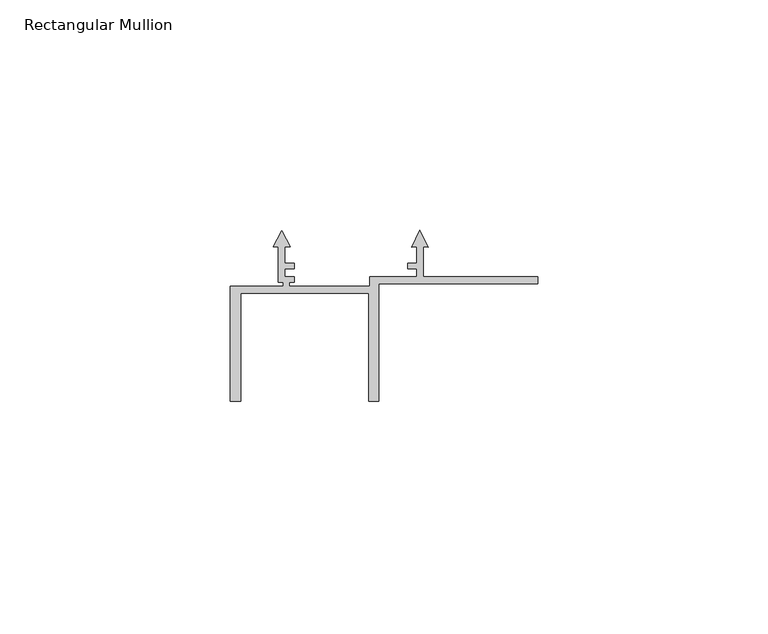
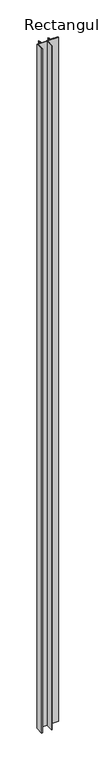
"""IFC4 building model written with IfcOpenShell, lengths in millimetres: member geometry, Rectangular Mullion : Renson_Linarte_LA-E25-01 Zone B."""

import ifcopenshell
import ifcopenshell.guid

model = None  # the IFC model being written
_history = None  # IfcOwnerHistory: only IFC2X3 demands one
_inside = {}  # id of a spatial element -> (the spatial element, [elements in it])
_under = {}  # id of a project, library or spatial element -> (it, [spatial elements below it])
_declared = {}  # id of a project -> (the project, [libraries it declares])
_typed = {}  # id of a type object -> (the type object, [elements of that type])
_made_of = {}  # id of a material, layer set ... -> (it, [elements and type objects made of it])


def new_model(schema):
    """Start an empty IFC model of exactly this schema.

    Asked for "IFC4X3", IfcOpenShell would pick the latest addendum, in which some entities
    have other attributes; the version numbers below select the first issue.
    IFC2X3 requires an IfcOwnerHistory on every rooted entity: one is made here for all.
    """
    global model, _history
    if schema == "IFC4X3":
        model = ifcopenshell.file(schema_version=(4, 3, 0, 0))
    else:
        model = ifcopenshell.file(schema=schema)
    _inside.clear()
    _under.clear()
    _declared.clear()
    _typed.clear()
    _made_of.clear()
    _history = None
    if model.schema == "IFC2X3":
        org = make("IfcOrganization", Name="unknown")
        user = make(
            "IfcPersonAndOrganization",
            ThePerson=make("IfcPerson", FamilyName="unknown"),
            TheOrganization=org,
        )
        app = make(
            "IfcApplication",
            ApplicationDeveloper=org,
            Version="unknown",
            ApplicationFullName="unknown",
            ApplicationIdentifier="unknown",
        )
        _history = make(
            "IfcOwnerHistory",
            OwningUser=user,
            OwningApplication=app,
            ChangeAction="ADDED",
            CreationDate=0,
        )
    return model


def make(cls, **values):
    """One entity of the class cls with the attributes given. An attribute that is None is left unset."""
    return model.create_entity(
        cls, **{name: value for name, value in values.items() if value is not None}
    )


def rooted(cls, **values):
    """An entity with a GlobalId (a new one), such as an element, a storey or a relation."""
    return make(cls, GlobalId=ifcopenshell.guid.new(), OwnerHistory=_history, **values)


def si_unit(unit_type, name, prefix=None):
    """IfcSIUnit, for example si_unit("LENGTHUNIT", "METRE", prefix="MILLI")."""
    return make("IfcSIUnit", UnitType=unit_type, Prefix=prefix, Name=name)


def assignment(units):
    """IfcUnitAssignment: the units of a project."""
    return None if units is None else make("IfcUnitAssignment", Units=units)


def point(xyz):
    """IfcCartesianPoint."""
    return None if xyz is None else make("IfcCartesianPoint", Coordinates=xyz)


def direction(xyz):
    """IfcDirection."""
    return None if xyz is None else make("IfcDirection", DirectionRatios=xyz)


def frame(location, z_axis=None, x_axis=None):
    """IfcAxis2Placement3D, a coordinate frame: its origin and axes. An axis left out is left unset."""
    return make(
        "IfcAxis2Placement3D",
        Location=point(location),
        Axis=direction(z_axis),
        RefDirection=direction(x_axis),
    )


def origin():
    """The frame at (0, 0, 0) with its axes left unset."""
    return frame((0.0, 0.0, 0.0))


def place(relative_to, where):
    """IfcLocalPlacement: puts the frame where relative to a parent placement (None: the world)."""
    return make(
        "IfcLocalPlacement", PlacementRelTo=relative_to, RelativePlacement=where
    )


def context(
    kind, dimensions, precision=None, world=None, true_north=None, identifier=None
):
    """IfcGeometricRepresentationContext, for example the 3D "Model" context."""
    return make(
        "IfcGeometricRepresentationContext",
        ContextIdentifier=identifier,
        ContextType=kind,
        CoordinateSpaceDimension=dimensions,
        Precision=precision,
        WorldCoordinateSystem=world,
        TrueNorth=true_north,
    )


def project(units=None, contexts=None):
    """IfcProject with its units and contexts."""
    return rooted(
        "IfcProject",
        Name="project",
        RepresentationContexts=contexts,
        UnitsInContext=assignment(units),
    )


def spatial(cls, under=None, at=None, **own):
    """A site, building, storey or space (cls), placed at a placement, below another one or the project."""
    s = rooted(cls, ObjectPlacement=at, **own)
    if under is not None:
        _under.setdefault(under.id(), (under, []))[1].append(s)
    return s


def polyline(points):
    """IfcPolyline through the points."""
    return make("IfcPolyline", Points=[point(p) for p in points])


def outline(outer, holes=None, kind="AREA"):
    """IfcArbitraryClosedProfileDef: a profile drawn as a closed curve; with holes, ...WithVoids."""
    if holes is None:
        return make("IfcArbitraryClosedProfileDef", ProfileType=kind, OuterCurve=outer)
    return make(
        "IfcArbitraryProfileDefWithVoids",
        ProfileType=kind,
        OuterCurve=outer,
        InnerCurves=holes,
    )


def extrude(swept, where, along, depth):
    """IfcExtrudedAreaSolid: the profile swept, set in the frame where, extruded along a direction by depth."""
    return make(
        "IfcExtrudedAreaSolid",
        SweptArea=swept,
        Position=where,
        ExtrudedDirection=direction(along),
        Depth=depth,
    )


def shape(context_of_items, identifier, shape_type, items):
    """IfcShapeRepresentation: the items that make up one representation, for example the "Body"."""
    return make(
        "IfcShapeRepresentation",
        ContextOfItems=context_of_items,
        RepresentationIdentifier=identifier,
        RepresentationType=shape_type,
        Items=items,
    )


def source(mapping_origin, context_of_items, identifier, shape_type, items):
    """IfcRepresentationMap: a shape defined once, which mapped items show again and again."""
    return make(
        "IfcRepresentationMap",
        MappingOrigin=mapping_origin,
        MappedRepresentation=shape(context_of_items, identifier, shape_type, items),
    )


def transform(
    local_origin,
    x_axis=None,
    y_axis=None,
    z_axis=None,
    scale=None,
    scale2=None,
    scale3=None,
    uniform=True,
):
    """IfcCartesianTransformationOperator3D, or its non-uniform kind. x_axis, y_axis, z_axis: its Axis1, 2, 3."""
    if uniform:
        return make(
            "IfcCartesianTransformationOperator3D",
            Axis1=direction(x_axis),
            Axis2=direction(y_axis),
            LocalOrigin=point(local_origin),
            Scale=scale,
            Axis3=direction(z_axis),
        )
    return make(
        "IfcCartesianTransformationOperator3DnonUniform",
        Axis1=direction(x_axis),
        Axis2=direction(y_axis),
        LocalOrigin=point(local_origin),
        Scale=scale,
        Axis3=direction(z_axis),
        Scale2=scale2,
        Scale3=scale3,
    )


def mapped(mapping_source, mapping_target):
    """IfcMappedItem: shows the shape of a source again, moved by a transform."""
    return make(
        "IfcMappedItem", MappingSource=mapping_source, MappingTarget=mapping_target
    )


def made_of(thing, what):
    """Note that an element or type object is made of a material, layer set ...; save() writes the relation."""
    if what is not None:
        _made_of.setdefault(what.id(), (what, []))[1].append(thing)
    return thing


def element(
    cls,
    number,
    at=None,
    inside=None,
    cuts=None,
    type_object=None,
    material=None,
    context=None,
    identifier="Body",
    shape_type=None,
    held_by="IfcProductDefinitionShape",
    body=None,
    shapes=None,
    **own,
):
    """One element of the class cls, such as IfcWall. Its Tag is "e" and its number.

    at: its placement. inside: the storey or other place that contains it. cuts: it is an
    opening in that element (IfcRelVoidsElement). A single representation is given by context,
    identifier, shape_type and body (its items); several are given by shapes. held_by: the class
    of the entity that holds the representations. save() writes the other relations.
    """
    e = rooted(cls, Tag="e%d" % number, ObjectPlacement=at, **own)
    if body is not None:
        shapes = [shape(context, identifier, shape_type, body)]
    if shapes is not None:
        e.Representation = make(held_by, Representations=shapes)
    if inside is not None:
        _inside.setdefault(inside.id(), (inside, []))[1].append(e)
    if cuts is not None:
        rooted(
            "IfcRelVoidsElement", RelatingBuildingElement=cuts, RelatedOpeningElement=e
        )
    if type_object is not None:
        _typed.setdefault(type_object.id(), (type_object, []))[1].append(e)
    return made_of(e, material)


def aggregate(whole, parts):
    """IfcRelAggregates: a whole, such as a stair, and the parts it consists of."""
    return rooted("IfcRelAggregates", RelatingObject=whole, RelatedObjects=parts)


def save(model, path):
    """Write the relations noted so far, then the file.

    IfcRelAggregates (storeys below a building ...), IfcRelContainedInSpatialStructure (elements
    in a storey), IfcRelDefinesByType, IfcRelAssociatesMaterial and IfcRelDeclares: one each for
    every whole, place, type object, material and project.
    """
    for whole, parts in _under.values():
        aggregate(whole, parts)
    for where, things in _inside.values():
        rooted(
            "IfcRelContainedInSpatialStructure",
            RelatedElements=things,
            RelatingStructure=where,
        )
    for kind, things in _typed.values():
        rooted("IfcRelDefinesByType", RelatedObjects=things, RelatingType=kind)
    for what, things in _made_of.values():
        rooted("IfcRelAssociatesMaterial", RelatedObjects=things, RelatingMaterial=what)
    for by, libraries in _declared.values():
        rooted("IfcRelDeclares", RelatingContext=by, RelatedDefinitions=libraries)
    model.write(path)


def rectangular_mullion_0795b381(model_context):
    return source(origin(), model_context, "Body", "SweptSolid", [
        extrude(outline(polyline([(66.6, -21.6000494), (32.2, -21.6000494), (32.2, -47.1000494), (30.0, -47.1000494), (30.0, -23.6000494), (2.2, -23.6000494), (2.2, -47.1000494), (0.0, -47.1000494), (0.0, -22.1000494), (11.4, -22.1000494), (11.4, -21.3015754), (10.3999985, -21.3015754), (10.3999985, -13.5038712), (9.284262, -13.6014855), (11.0999986, -10.037898), (12.9157351, -13.6014855), (11.7999987, -13.5038712), (11.7999987, -17.0979618), (13.7875618, -17.0979618), (13.7875618, -18.3000494), (11.8091794, -18.3000494), (11.8091794, -20.1000494), (13.7880766, -20.1000494), (13.7880766, -21.3015754), (12.8, -21.3015754), (12.8, -22.1000494), (30.1732051, -22.1000494), (30.1732051, -20.1000494), (40.3999995, -20.1000494), (40.3999995, -18.3000494), (38.4077357, -18.3000494), (38.4077357, -17.099221), (40.3999998, -17.099221), (40.3999998, -13.5071867), (39.2744672, -13.6056581), (41.0999986, -10.0228474), (42.9255299, -13.6056578), (41.8, -13.5071867), (41.8, -20.1000494), (66.6, -20.1000494), (66.6, -21.6000494)])), frame((0.0, 0.0, -2225.0), z_axis=(0.0, 0.0, 1.0), x_axis=(1.0, 0.0, 0.0)), (0.0, 0.0, 1.0), 2225.0),
    ])


if __name__ == "__main__":
    model = new_model("IFC4")
    model_context = context("Model", 3, world=origin())
    ifc_project = project(units=[si_unit("LENGTHUNIT", "METRE", prefix="MILLI")], contexts=[model_context])
    site = spatial("IfcSite", under=ifc_project)
    building = spatial("IfcBuilding", under=site)
    placement = place(None, origin())
    rectangular_mullion_shape = rectangular_mullion_0795b381(model_context)
    element("IfcMember", 1, ObjectType="Rectangular Mullion : Renson_Linarte_LA-E25-01 Zone B", at=placement, inside=building, context=model_context, shape_type="MappedRepresentation", body=[
        mapped(rectangular_mullion_shape, transform((0.0, 0.0, 0.0), x_axis=(1.0, 0.0, 0.0), y_axis=(0.0, 1.0, 0.0), z_axis=(0.0, 0.0, 1.0))),
    ])
    save(model, "model.ifc")
